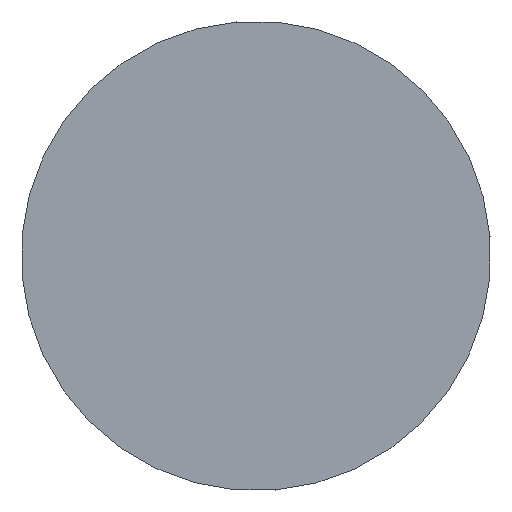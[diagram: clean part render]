
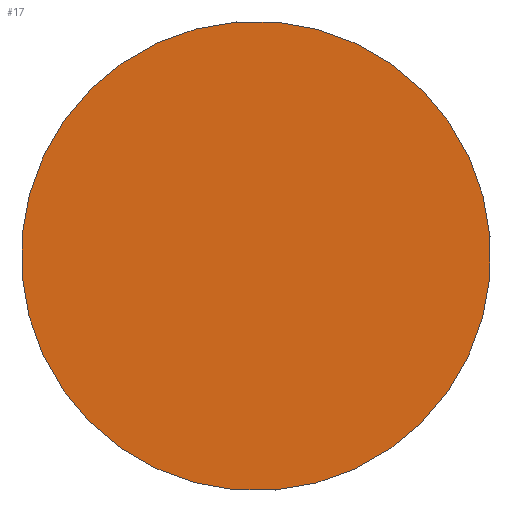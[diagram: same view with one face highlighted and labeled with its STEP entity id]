
A CAD part, left-side view. The second image highlights one B-rep face of the part: STEP entity #17.
In plain terms, the highlighted planar face has unit normal (-1, 0, 0).
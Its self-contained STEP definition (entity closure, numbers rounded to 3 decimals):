
#5 = EDGE_LOOP ( 'NONE', ( #410, #420 ) ) ;
#17 = ADVANCED_FACE ( 'NONE', ( #127 ), #101, .T. ) ;
#31 = DIRECTION ( 'NONE',  ( -1., 0., 0. ) ) ;
#60 = DIRECTION ( 'NONE',  ( 1., 0., 0. ) ) ;
#91 = VERTEX_POINT ( 'NONE', #367 ) ;
#97 = CARTESIAN_POINT ( 'NONE',  ( -50., 2., 0. ) ) ;
#101 = PLANE ( 'NONE',  #163 ) ;
#127 = FACE_OUTER_BOUND ( 'NONE', #5, .T. ) ;
#130 = AXIS2_PLACEMENT_3D ( 'NONE', #277, #60, #198 ) ;
#135 = EDGE_CURVE ( 'NONE', #91, #430, #345, .T. ) ;
#139 = CARTESIAN_POINT ( 'NONE',  ( -50., 0., 2. ) ) ;
#163 = AXIS2_PLACEMENT_3D ( 'NONE', #97, #31, #452 ) ;
#198 = DIRECTION ( 'NONE',  ( 0., 0., -1. ) ) ;
#210 = DIRECTION ( 'NONE',  ( 0., 0., -1. ) ) ;
#224 = AXIS2_PLACEMENT_3D ( 'NONE', #362, #288, #210 ) ;
#277 = CARTESIAN_POINT ( 'NONE',  ( -50., 0., 0. ) ) ;
#286 = CIRCLE ( 'NONE', #130, 2. ) ;
#288 = DIRECTION ( 'NONE',  ( 1., 0., 0. ) ) ;
#310 = EDGE_CURVE ( 'NONE', #430, #91, #286, .T. ) ;
#345 = CIRCLE ( 'NONE', #224, 2. ) ;
#362 = CARTESIAN_POINT ( 'NONE',  ( -50., 0., 0. ) ) ;
#367 = CARTESIAN_POINT ( 'NONE',  ( -50., 0., -2. ) ) ;
#410 = ORIENTED_EDGE ( 'NONE', *, *, #135, .F. ) ;
#420 = ORIENTED_EDGE ( 'NONE', *, *, #310, .F. ) ;
#430 = VERTEX_POINT ( 'NONE', #139 ) ;
#452 = DIRECTION ( 'NONE',  ( 0., 0., 1. ) ) ;
